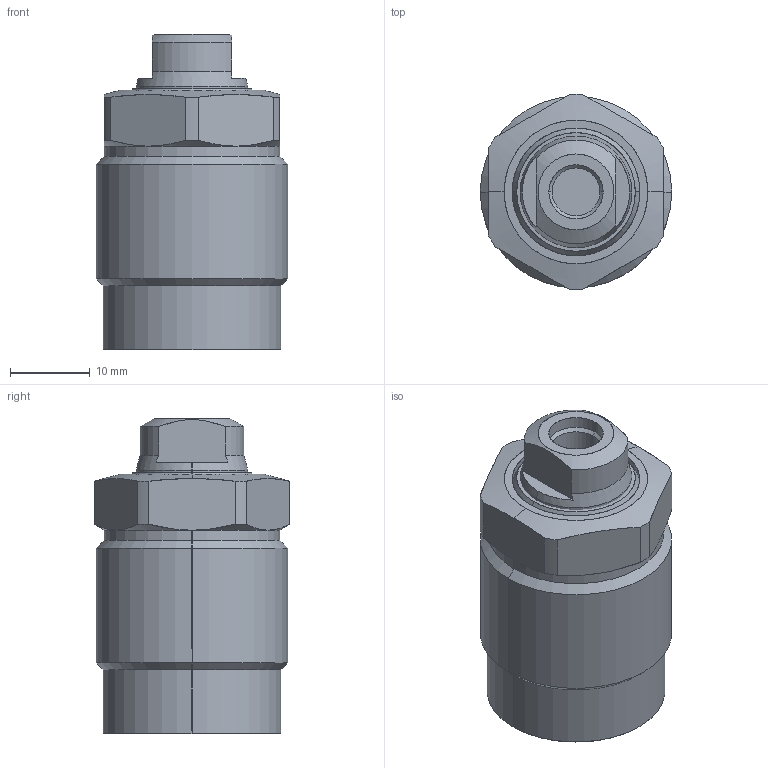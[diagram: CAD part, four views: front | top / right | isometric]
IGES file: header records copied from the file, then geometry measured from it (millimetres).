
Start section: SolidWorks IGES file using analytic representation for surfaces
Global section: file name: D:\abhilash\nijil\cylinder\Clasys1\dp converted\03\pt\01\0102-0301.IGS; native system: SolidWorks 2010; preprocessor: SolidWorks 2010; author: nidheesh; date: 130730.113508; units: millimetre
Bounding box: 24 x 24.49 x 39.5 mm (x, y, z)
Surface area: 4339.4 mm2 (no closed solid volume)
Topology: 0 solids, 0 shells, 74 faces, 932 edges, 932 vertices
Faces by surface type: revolution 50, bspline 24
